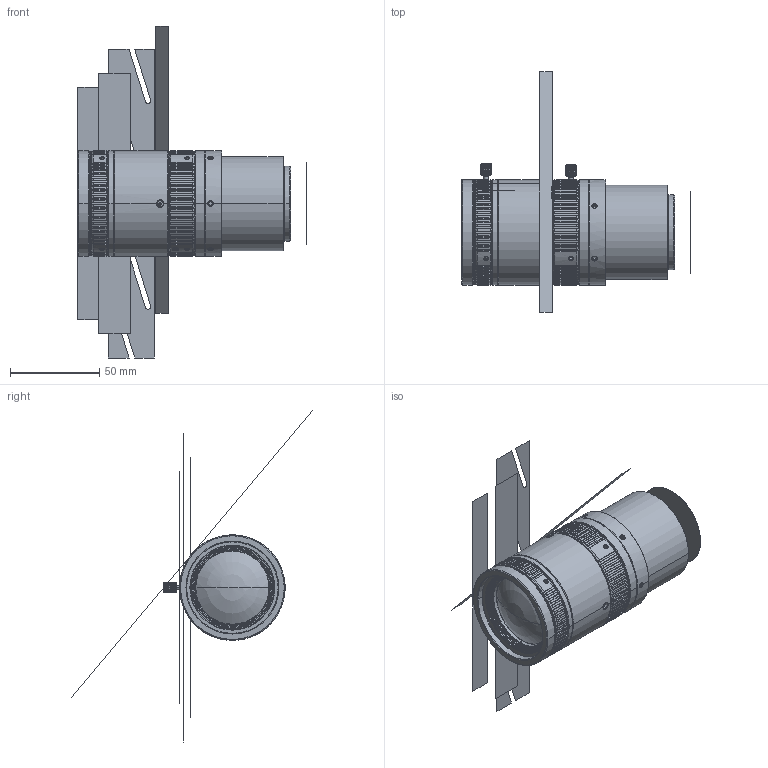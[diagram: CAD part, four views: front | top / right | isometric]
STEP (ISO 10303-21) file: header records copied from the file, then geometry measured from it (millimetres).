
FILE_DESCRIPTION((''),'2;1');
FILE_NAME('PRT0015','2020-08-12T16:36:08',('zshuangzf'),(''),'CREO PARAMETRIC BY PTC INC, 2017260','CREO PARAMETRIC BY PTC INC, 2017260','');
FILE_SCHEMA(('CONFIG_CONTROL_DESIGN','SHAPE_APPEARANCE_LAYERS_GROUPS'));
Length unit declared in the file: millimetre
Products named in the file (1): PRT0015
Bounding box: 127.91 x 134.99 x 185.79 mm (x, y, z)
Volume: 248021.9 mm3; surface area: 84150.5 mm2
Topology: 2 solids, 99 shells, 1614 faces, 7964 edges, 6791 vertices
Faces by surface type: plane 717, cylinder 604, cone 215, bspline 60, torus 14, sphere 4
Entity records: 113670 total; most frequent: CARTESIAN_POINT 32735, DIRECTION 10144, ORIENTED_EDGE 8789, PRESENTATION_STYLE_ASSIGNMENT 8519, STYLED_ITEM 8512, CURVE_STYLE 8216, EDGE_CURVE 4581, VECTOR 3704
